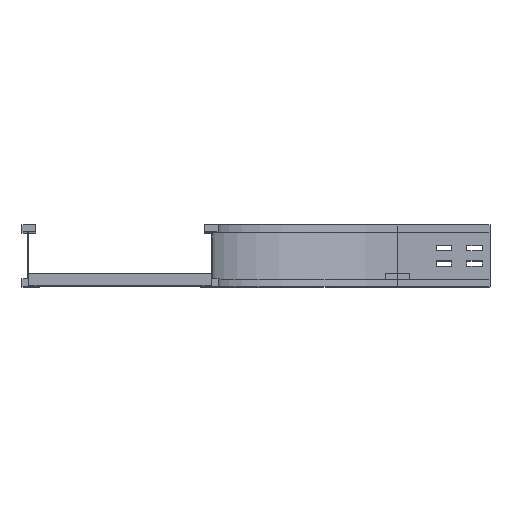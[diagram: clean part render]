
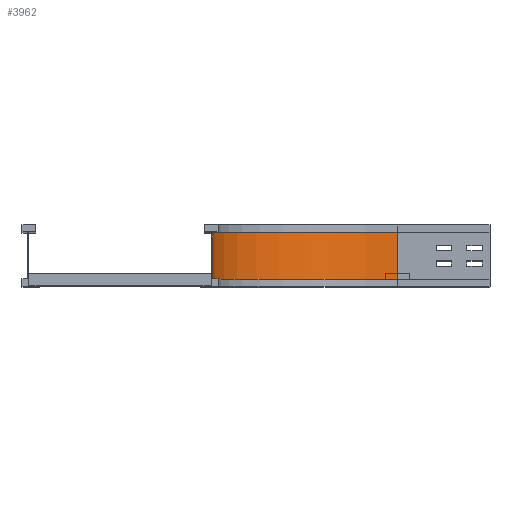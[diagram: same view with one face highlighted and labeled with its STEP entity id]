
A CAD part, top view. The second image highlights one B-rep face of the part: STEP entity #3962.
In plain terms, the highlighted cylindrical face has radius 300 mm (diameter 600 mm), a partial arc.
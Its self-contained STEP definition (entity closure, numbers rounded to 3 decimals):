
#448 = FACE_OUTER_BOUND ( 'NONE', #3984, .T. ) ;
#1048 = CARTESIAN_POINT ( 'NONE',  ( -9., 12., -150. ) ) ;
#1246 = EDGE_CURVE ( 'NONE', #1270, #1530, #2091, .T. ) ;
#1247 = EDGE_CURVE ( 'NONE', #4253, #1270, #3755, .T. ) ;
#1270 = VERTEX_POINT ( 'NONE', #3732 ) ;
#1375 = ORIENTED_EDGE ( 'NONE', *, *, #1247, .F. ) ;
#1530 = VERTEX_POINT ( 'NONE', #3727 ) ;
#1753 = CARTESIAN_POINT ( 'NONE',  ( 291., 88., -150. ) ) ;
#1758 = CARTESIAN_POINT ( 'NONE',  ( 291., 12., -450. ) ) ;
#1770 = CYLINDRICAL_SURFACE ( 'NONE', #3085, 300. ) ;
#1778 = VECTOR ( 'NONE', #2995, 1000. ) ;
#2008 = CIRCLE ( 'NONE', #4038, 300. ) ;
#2017 = CARTESIAN_POINT ( 'NONE',  ( -9., 12., -150. ) ) ;
#2091 = CIRCLE ( 'NONE', #3419, 300. ) ;
#2410 = DIRECTION ( 'NONE',  ( -1., 0., 0. ) ) ;
#2735 = DIRECTION ( 'NONE',  ( 0., -1., 0. ) ) ;
#2821 = CARTESIAN_POINT ( 'NONE',  ( 291., 12., -150. ) ) ;
#2849 = EDGE_CURVE ( 'NONE', #4253, #3077, #2008, .T. ) ;
#2855 = VECTOR ( 'NONE', #3087, 1000. ) ;
#2861 = ORIENTED_EDGE ( 'NONE', *, *, #3397, .T. ) ;
#2950 = LINE ( 'NONE', #3965, #1778 ) ;
#2995 = DIRECTION ( 'NONE',  ( 0., 1., 0. ) ) ;
#3007 = DIRECTION ( 'NONE',  ( 0., 0., -1. ) ) ;
#3077 = VERTEX_POINT ( 'NONE', #1758 ) ;
#3085 = AXIS2_PLACEMENT_3D ( 'NONE', #3101, #4118, #3007 ) ;
#3087 = DIRECTION ( 'NONE',  ( 0., 1., 0. ) ) ;
#3101 = CARTESIAN_POINT ( 'NONE',  ( 291., 0., -150. ) ) ;
#3397 = EDGE_CURVE ( 'NONE', #3077, #1530, #2950, .T. ) ;
#3419 = AXIS2_PLACEMENT_3D ( 'NONE', #1753, #2735, #2410 ) ;
#3505 = DIRECTION ( 'NONE',  ( 0., -1., 0. ) ) ;
#3727 = CARTESIAN_POINT ( 'NONE',  ( 291., 88., -450. ) ) ;
#3731 = ORIENTED_EDGE ( 'NONE', *, *, #1246, .F. ) ;
#3732 = CARTESIAN_POINT ( 'NONE',  ( -9., 88., -150. ) ) ;
#3755 = LINE ( 'NONE', #2017, #2855 ) ;
#3872 = DIRECTION ( 'NONE',  ( -1., 0., 0. ) ) ;
#3942 = ORIENTED_EDGE ( 'NONE', *, *, #2849, .T. ) ;
#3962 = ADVANCED_FACE ( 'NONE', ( #448 ), #1770, .F. ) ;
#3965 = CARTESIAN_POINT ( 'NONE',  ( 291., 12., -450. ) ) ;
#3984 = EDGE_LOOP ( 'NONE', ( #3731, #1375, #3942, #2861 ) ) ;
#4038 = AXIS2_PLACEMENT_3D ( 'NONE', #2821, #3505, #3872 ) ;
#4118 = DIRECTION ( 'NONE',  ( 0., -1., 0. ) ) ;
#4253 = VERTEX_POINT ( 'NONE', #1048 ) ;
